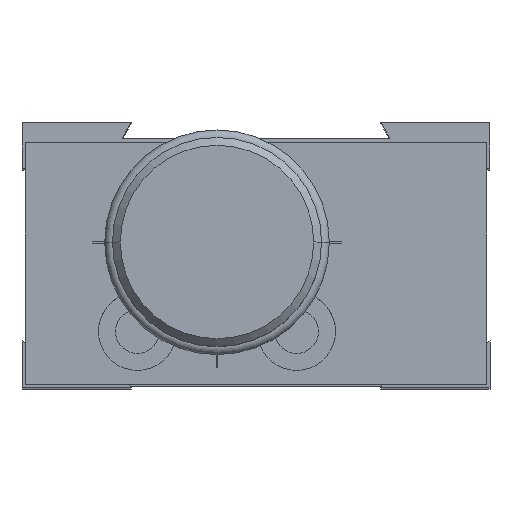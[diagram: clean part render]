
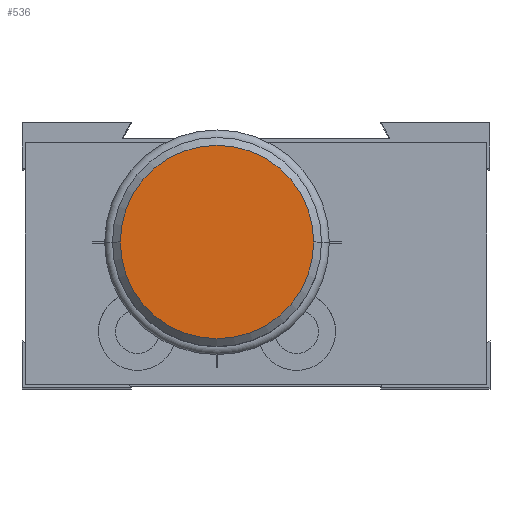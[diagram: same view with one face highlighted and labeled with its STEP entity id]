
A CAD part, top view. The second image highlights one B-rep face of the part: STEP entity #536.
In plain terms, the highlighted planar face has unit normal (0, 0, 1).
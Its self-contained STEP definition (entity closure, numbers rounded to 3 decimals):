
#517 = EDGE_LOOP ( 'NONE', ( #518, #520 ) ) ;
#518 = ORIENTED_EDGE ( 'NONE', *, *, #537, .T. ) ;
#520 = ORIENTED_EDGE ( 'NONE', *, *, #4921, .T. ) ;
#536 = ADVANCED_FACE ( 'NONE', ( #2528 ), #2527, .T. ) ;
#537 = EDGE_CURVE ( 'NONE', #4913, #4912, #2522, .T. ) ;
#2518 = DIRECTION ( 'NONE',  ( 1., 0., 0. ) ) ;
#2519 = DIRECTION ( 'NONE',  ( 0., 0., 1. ) ) ;
#2520 = CARTESIAN_POINT ( 'NONE',  ( -2.5, 9.3, 56. ) ) ;
#2521 = AXIS2_PLACEMENT_3D ( 'NONE', #2520, #2519, #2518 ) ;
#2522 = CIRCLE ( 'NONE', #2521, 6.2 ) ;
#2523 = DIRECTION ( 'NONE',  ( 1., 0., 0. ) ) ;
#2524 = DIRECTION ( 'NONE',  ( 0., 0., 1. ) ) ;
#2525 = CARTESIAN_POINT ( 'NONE',  ( -2.5, 9.3, 56. ) ) ;
#2526 = AXIS2_PLACEMENT_3D ( 'NONE', #2525, #2524, #2523 ) ;
#2527 = PLANE ( 'NONE',  #2526 ) ;
#2528 = FACE_OUTER_BOUND ( 'NONE', #517, .T. ) ;
#4343 = CARTESIAN_POINT ( 'NONE',  ( -8.7, 9.3, 56. ) ) ;
#4344 = CARTESIAN_POINT ( 'NONE',  ( 3.7, 9.3, 56. ) ) ;
#4394 = DIRECTION ( 'NONE',  ( 1., 0., 0. ) ) ;
#4395 = DIRECTION ( 'NONE',  ( 0., 0., 1. ) ) ;
#4396 = CARTESIAN_POINT ( 'NONE',  ( -2.5, 9.3, 56. ) ) ;
#4397 = AXIS2_PLACEMENT_3D ( 'NONE', #4396, #4395, #4394 ) ;
#4398 = CIRCLE ( 'NONE', #4397, 6.2 ) ;
#4912 = VERTEX_POINT ( 'NONE', #4344 ) ;
#4913 = VERTEX_POINT ( 'NONE', #4343 ) ;
#4921 = EDGE_CURVE ( 'NONE', #4912, #4913, #4398, .T. ) ;
